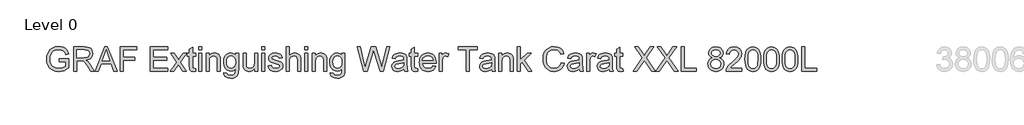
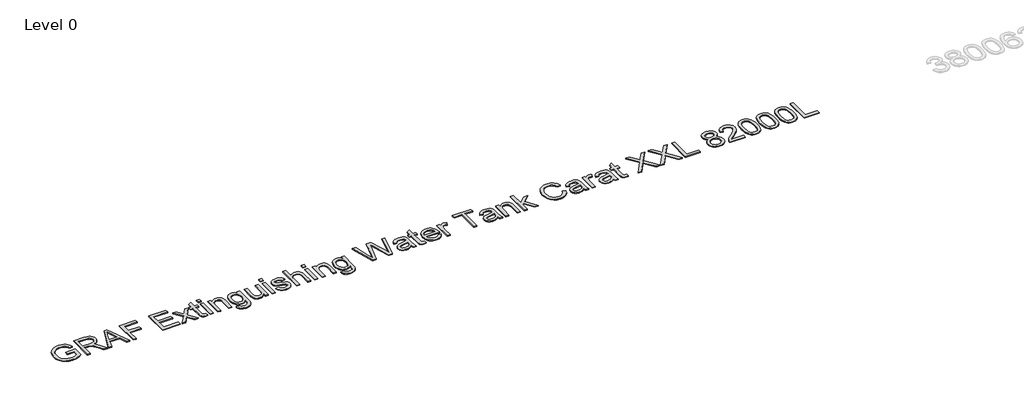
# One storey, part 30 of 37: 1 proxy.
"""IFC4 building model written with IfcOpenShell, lengths in millimetres."""

from ifc_helpers import new_model, si_unit, origin, origin_with_axes, place, context, project, spatial, polyline, outline, extrude, element, save

model = new_model("IFC4")

# Units and contexts
model_context = context("Model", 3, world=origin())
ifc_project = project(units=[si_unit("LENGTHUNIT", "METRE", prefix="MILLI")], contexts=[model_context])

# Site, building, storey
site = spatial("IfcSite", under=ifc_project)
building = spatial("IfcBuilding", under=site)
storey = spatial("IfcBuildingStorey", under=building, Name="Level 0", Elevation=0.0)

# Proxy
placement = place(None, origin())
element("IfcBuildingElementProxy", 1, Name="300mm Arial", ObjectType="300mm Arial", at=placement, inside=storey, context=model_context, shape_type="SweptSolid", body=[
    extrude(outline(polyline([(16759.0059613, -9583.2545597), (16759.0059613, -9545.5834434), (16881.4370893, -9545.5834434), (16881.4370893, -9658.2289103), (16851.6846329, -9678.9222726), (16820.9940775, -9693.7663111), (16789.4389993, -9702.7058436), (16757.0929749, -9705.6856877), (16714.8325307, -9700.949207), (16676.6371825, -9686.739765), (16644.9073605, -9663.5540022), (16622.0434945, -9631.8885595), (16608.2203285, -9593.9047435), (16603.6126065, -9551.7638609), (16608.2019344, -9509.3194757), (16621.9699181, -9469.8365406), (16644.3463404, -9436.717964), (16674.7609844, -9413.3666543), (16711.8067013, -9399.5158972), (16754.0763425, -9394.8989782), (16785.1071888, -9397.5753197), (16813.0110382, -9405.6043443), (16836.5095006, -9418.4066377), (16854.3241862, -9435.4027859), (16867.5035587, -9457.4113262), (16877.0960817, -9485.2507962), (16842.3680214, -9495.0364573), (16834.6149083, -9475.1800266), (16825.1879322, -9460.1980323), (16812.7167326, -9448.9040551), (16795.830949, -9440.1116754), (16775.6986068, -9434.4554897), (16753.4877313, -9432.5700945), (16727.4876713, -9434.6026425), (16705.2584018, -9440.7002866), (16686.8826961, -9450.0996716), (16672.4433278, -9462.0374423), (16653.0559467, -9491.0633317), (16644.2267788, -9519.50061), (16641.2837228, -9550.2187566), (16644.824587, -9586.2436009), (16655.4471796, -9615.8856927), (16672.8296039, -9638.9334997), (16696.6499631, -9655.1754898), (16724.5262213, -9664.804801), (16754.0763425, -9668.0145714), (16780.168373, -9665.5957473), (16805.6166101, -9658.3392749), (16827.7171209, -9648.3420817), (16843.765973, -9637.701095), (16843.765973, -9583.2545597), (16759.0059613, -9583.2545597)])), origin_with_axes(), (0.0, 0.0, 1.0), 10.0),
    extrude(outline(polyline([(16942.6526533, -9700.9767982), (16942.6526533, -9399.6078677), (17072.5149976, -9399.6078677), (17107.4178018, -9401.6404158), (17132.8108566, -9407.7380598), (17151.3705032, -9418.9952489), (17165.7730833, -9436.5064318), (17175.0161185, -9458.2206666), (17178.0971302, -9482.087011), (17172.9927675, -9511.7750881), (17157.6796794, -9536.3863935), (17146.0799003, -9546.4157764), (17131.6980135, -9554.4310054), (17094.5879173, -9564.4190016), (17115.9986494, -9580.532233), (17146.532855, -9619.3069952), (17196.7855355, -9700.9767982), (17153.0075781, -9700.9767982), (17113.7913574, -9638.5104354), (17085.4644438, -9597.1604991), (17065.5620278, -9577.6259652), (17047.6461747, -9570.4522663), (17025.7939842, -9569.1278911), (16980.3237696, -9569.1278911), (16980.3237696, -9700.9767982), (16942.6526533, -9700.9767982)]), holes=[polyline([(16980.3237696, -9531.4567748), (17064.6423229, -9531.4567748), (17088.8581552, -9530.1232026), (17107.6477281, -9526.1224859), (17121.7927908, -9519.1879103), (17132.0750926, -9509.0527613), (17138.3382835, -9496.7930938), (17140.4260139, -9483.4849626), (17136.4436913, -9465.109257), (17124.4967235, -9450.3020067), (17103.941317, -9440.5347397), (17074.1336783, -9437.278984), (16980.3237696, -9437.278984), (16980.3237696, -9531.4567748)])]), origin_with_axes(), (0.0, 0.0, 1.0), 10.0),
    extrude(outline(polyline([(17208.9256414, -9700.9767982), (17329.2230538, -9399.6078677), (17361.3023638, -9399.6078677), (17481.5997762, -9700.9767982), (17441.7949443, -9700.9767982), (17407.2876132, -9606.7990074), (17283.164228, -9606.7990074), (17248.7304732, -9700.9767982), (17208.9256414, -9700.9767982)]), holes=[polyline([(17296.996591, -9569.1278911), (17393.5288265, -9569.1278911), (17366.3791353, -9495.0364573), (17345.2627088, -9437.278984), (17326.500727, -9488.5617342), (17296.996591, -9569.1278911)])]), origin_with_axes(), (0.0, 0.0, 1.0), 10.0),
    extrude(outline(polyline([(17521.8460665, -9700.9767982), (17521.8460665, -9399.6078677), (17724.3283166, -9399.6078677), (17724.3283166, -9437.278984), (17559.5171828, -9437.278984), (17559.5171828, -9526.7478853), (17700.7838689, -9526.7478853), (17700.7838689, -9564.4190016), (17559.5171828, -9564.4190016), (17559.5171828, -9700.9767982), (17521.8460665, -9700.9767982)])), origin_with_axes(), (0.0, 0.0, 1.0), 10.0),
    extrude(outline(polyline([(17893.84834, -9700.9767982), (17893.84834, -9399.6078677), (18110.4572587, -9399.6078677), (18110.4572587, -9437.278984), (17931.5194563, -9437.278984), (17931.5194563, -9526.7478853), (18101.0394797, -9526.7478853), (18101.0394797, -9564.4190016), (17931.5194563, -9564.4190016), (17931.5194563, -9663.3056819), (18115.1661483, -9663.3056819), (18115.1661483, -9700.9767982), (17893.84834, -9700.9767982)])), origin_with_axes(), (0.0, 0.0, 1.0), 10.0),
    extrude(outline(polyline([(18143.4194855, -9700.9767982), (18223.9120661, -9589.7292828), (18148.1283751, -9479.6589899), (18193.4514369, -9479.6589899), (18230.0189072, -9532.6339972), (18247.0886318, -9557.6499729), (18261.877488, -9537.1957339), (18303.5217298, -9479.6589899), (18348.8447916, -9479.6589899), (18269.2351279, -9589.7292828), (18345.9017357, -9700.9767982), (18300.5786739, -9700.9767982), (18254.4462717, -9634.0958515), (18245.9849858, -9621.8821692), (18188.7425473, -9700.9767982), (18143.4194855, -9700.9767982)])), origin_with_axes(), (0.0, 0.0, 1.0), 10.0),
    extrude(outline(polyline([(18458.9150846, -9669.5596758), (18463.6239741, -9702.0804442), (18435.4442133, -9705.6856877), (18417.3628132, -9704.1221892), (18403.8799381, -9699.4316938), (18394.3517944, -9692.2028126), (18388.1345887, -9683.0241568), (18384.7132861, -9667.2604133), (18383.572852, -9640.276269), (18383.572852, -9517.3301062), (18355.3195147, -9517.3301062), (18355.3195147, -9479.6589899), (18383.572852, -9479.6589899), (18383.572852, -9425.8746422), (18421.2439683, -9403.7281461), (18421.2439683, -9479.6589899), (18458.9150846, -9479.6589899), (18458.9150846, -9517.3301062), (18421.2439683, -9517.3301062), (18421.2439683, -9639.172623), (18423.230531, -9658.5967923), (18429.668466, -9665.4761856), (18442.5075476, -9668.0145714), (18458.9150846, -9669.5596758)])), origin_with_axes(), (0.0, 0.0, 1.0), 10.0),
    extrude(outline(polyline([(18496.5862009, -9437.278984), (18496.5862009, -9399.6078677), (18534.2573172, -9399.6078677), (18534.2573172, -9437.278984), (18496.5862009, -9437.278984)])), origin_with_axes(), (0.0, 0.0, 1.0), 10.0),
    extrude(outline(polyline([(18496.5862009, -9700.9767982), (18496.5862009, -9479.6589899), (18534.2573172, -9479.6589899), (18534.2573172, -9700.9767982), (18496.5862009, -9700.9767982)])), origin_with_axes(), (0.0, 0.0, 1.0), 10.0),
    extrude(outline(polyline([(18590.7639916, -9700.9767982), (18590.7639916, -9479.6589899), (18628.435108, -9479.6589899), (18628.435108, -9510.5610775), (18641.5225099, -9494.981275), (18657.2402682, -9483.8528446), (18675.5883827, -9477.1757864), (18696.5668535, -9474.9501003), (18715.1356972, -9476.7435251), (18732.1410424, -9482.1237992), (18746.3228933, -9490.4195382), (18756.4212541, -9500.9593574), (18767.7152313, -9528.6608716), (18769.7017941, -9565.0811892), (18769.7017941, -9700.9767982), (18732.0306778, -9700.9767982), (18732.0306778, -9570.1579607), (18727.6896703, -9536.8278519), (18721.6839967, -9526.9042351), (18712.3489911, -9519.2063044), (18700.3836292, -9514.2674886), (18686.4868868, -9512.6212166), (18664.4231641, -9516.3184307), (18645.6151971, -9527.4100729), (18638.0989081, -9536.4645685), (18632.7301302, -9548.8391991), (18628.435108, -9583.5488653), (18628.435108, -9700.9767982), (18590.7639916, -9700.9767982)])), origin_with_axes(), (0.0, 0.0, 1.0), 10.0),
    extrude(outline(polyline([(18812.0817999, -9719.8123563), (18849.7529163, -9724.5212459), (18853.9099828, -9736.2934697), (18861.9665985, -9744.3868736), (18877.8039184, -9750.6776557), (18898.5340688, -9752.7745831), (18920.6437767, -9750.4017442), (18937.0881019, -9743.2832276), (18948.4924438, -9731.8788858), (18955.4822017, -9716.6485712), (18958.0573756, -9672.7234609), (18945.5217966, -9685.084296), (18931.5330838, -9693.9134639), (18916.091237, -9699.2109646), (18899.1962564, -9700.9767982), (18878.5419816, -9698.9212575), (18860.3571148, -9692.7546356), (18844.6416558, -9682.4769323), (18831.3956047, -9668.0881478), (18820.8856759, -9650.8252852), (18813.378584, -9631.9253477), (18808.8743288, -9611.3883353), (18807.3729104, -9589.214248), (18810.067646, -9558.7996041), (18818.1518529, -9530.8313754), (18831.3404224, -9507.1305779), (18849.3482461, -9489.5182274), (18871.5591215, -9478.5921321), (18897.3568464, -9474.9501003), (18914.9737955, -9477.0102395), (18930.9628667, -9483.190657), (18945.3240601, -9493.4913529), (18958.0573756, -9507.9123271), (18958.0573756, -9479.6589899), (18995.7284919, -9479.6589899), (18995.7284919, -9670.7368982), (18993.153318, -9714.8551464), (18985.4277961, -9743.908627), (18972.1196649, -9763.1764465), (18952.7966631, -9777.9377116), (18927.881855, -9787.3187024), (18897.7983048, -9790.4456994), (18862.7483477, -9786.0403125), (18835.148001, -9772.8241518), (18824.7530354, -9762.9028343), (18817.44368, -9750.7604292), (18813.2199349, -9736.3969365), (18812.0817999, -9719.8123563)]), holes=[polyline([(18845.0440267, -9586.6390741), (18849.0631375, -9621.1923905), (18861.1204699, -9644.9483703), (18879.2478552, -9658.716354), (18901.4771248, -9663.3056819), (18923.5408474, -9658.7439451), (18941.7602032, -9645.0587349), (18953.9830825, -9621.6062577), (18958.0573756, -9587.7427201), (18953.8635209, -9555.0839959), (18941.2819567, -9531.5671394), (18922.7958864, -9517.3576973), (18900.8885136, -9512.6212166), (18879.3766139, -9517.2841209), (18861.3411991, -9531.2728338), (18849.1183198, -9554.4402024), (18845.0440267, -9586.6390741)])]), origin_with_axes(), (0.0, 0.0, 1.0), 10.0),
    extrude(outline(polyline([(19193.5018525, -9700.9767982), (19193.5018525, -9662.9377999), (19179.8718246, -9681.6400008), (19163.9977165, -9694.9987158), (19145.8795283, -9703.0139447), (19125.5172598, -9705.6856877), (19107.1691453, -9703.8094895), (19090.0902237, -9698.180895), (19075.76122, -9689.7196091), (19065.6628592, -9679.3453369), (19054.4424584, -9651.6070344), (19052.2351664, -9616.5846685), (19052.2351664, -9479.6589899), (19089.9062827, -9479.6589899), (19089.9062827, -9598.8527563), (19092.1871511, -9637.2596366), (19097.6777899, -9650.0711271), (19107.0863719, -9659.8108029), (19119.7874978, -9665.9636293), (19135.1557681, -9668.0145714), (19151.4069552, -9665.917644), (19166.6096787, -9659.6268619), (19179.1452577, -9649.7216392), (19187.3950114, -9636.78139), (19191.9751423, -9619.0586749), (19193.5018525, -9594.8060544), (19193.5018525, -9479.6589899), (19231.1729689, -9479.6589899), (19231.1729689, -9700.9767982), (19193.5018525, -9700.9767982)])), origin_with_axes(), (0.0, 0.0, 1.0), 10.0),
    extrude(outline(polyline([(19282.9707538, -9437.278984), (19282.9707538, -9399.6078677), (19320.6418701, -9399.6078677), (19320.6418701, -9437.278984), (19282.9707538, -9437.278984)])), origin_with_axes(), (0.0, 0.0, 1.0), 10.0),
    extrude(outline(polyline([(19282.9707538, -9700.9767982), (19282.9707538, -9479.6589899), (19320.6418701, -9479.6589899), (19320.6418701, -9700.9767982), (19282.9707538, -9700.9767982)])), origin_with_axes(), (0.0, 0.0, 1.0), 10.0),
    extrude(outline(polyline([(19363.0218759, -9635.0523446), (19400.6929922, -9630.3434551), (19406.6342865, -9646.4566865), (19418.1305988, -9658.3024867), (19435.2555057, -9665.5865502), (19458.0825835, -9668.0145714), (19480.6337498, -9665.7888853), (19496.4894638, -9659.1118271), (19505.8704547, -9649.4365307), (19508.9974516, -9638.2161298), (19505.8520606, -9628.6144097), (19496.4158874, -9621.293558), (19457.6411251, -9610.5514038), (19400.9137214, -9592.1205158), (19386.5571266, -9582.8590866), (19376.1552632, -9570.5994191), (19369.8368899, -9556.1232626), (19367.7307655, -9540.2123663), (19369.4230226, -9525.6166481), (19374.4997942, -9512.1429701), (19382.5012276, -9500.324761), (19392.9674703, -9490.6954497), (19416.9165882, -9479.5486253), (19449.326992, -9474.9501003), (19473.846327, -9476.7987074), (19495.1650886, -9482.3445284), (19512.3083896, -9491.0449376), (19524.3013426, -9502.357309), (19532.2475937, -9517.118574), (19537.2507888, -9536.1656643), (19499.5796725, -9540.8745539), (19494.8247977, -9529.0195566), (19485.4162157, -9520.0892211), (19471.261956, -9514.4882178), (19452.270048, -9512.6212166), (19430.6385866, -9514.4054443), (19416.2176124, -9519.7581274), (19408.1058144, -9527.4836493), (19405.4018818, -9536.3863935), (19409.8900421, -9547.349277), (19423.9431343, -9555.6634101), (19456.3903263, -9563.6832376), (19511.6829902, -9581.4151497), (19526.2879054, -9589.8948297), (19537.3611534, -9601.5015067), (19544.3417143, -9616.2719688), (19546.6685679, -9634.2430043), (19543.9370441, -9652.821045), (19535.7424727, -9670.2954398), (19522.3975533, -9685.2958281), (19504.2149857, -9696.4518496), (19482.2524306, -9703.3772282), (19457.5675487, -9705.6856877), (19419.5837327, -9701.2343156), (19391.8638243, -9687.8801992), (19373.35936, -9665.7704912), (19363.0218759, -9635.0523446)])), origin_with_axes(), (0.0, 0.0, 1.0), 10.0),
    extrude(outline(polyline([(19589.0485738, -9700.9767982), (19589.0485738, -9399.6078677), (19626.7196901, -9399.6078677), (19626.7196901, -9510.4139247), (19640.5566516, -9494.8985015), (19656.0950674, -9483.8160564), (19673.3349374, -9477.1665894), (19692.2762616, -9474.9501003), (19715.029763, -9477.3689245), (19734.5826911, -9484.6253968), (19749.9785526, -9496.1493003), (19760.2608543, -9511.3704179), (19766.0549957, -9532.2845093), (19767.9863762, -9560.8873344), (19767.9863762, -9700.9767982), (19730.3152599, -9700.9767982), (19730.3152599, -9564.7868836), (19727.3170216, -9541.2056477), (19718.3223069, -9525.0556281), (19703.8277563, -9515.7298195), (19684.3300105, -9512.6212166), (19668.4099172, -9514.718144), (19653.4647111, -9521.0089261), (19641.085482, -9530.8865577), (19632.8633194, -9543.7440334), (19628.2555974, -9560.8321521), (19626.7196901, -9583.4017125), (19626.7196901, -9700.9767982), (19589.0485738, -9700.9767982)])), origin_with_axes(), (0.0, 0.0, 1.0), 10.0),
    extrude(outline(polyline([(19819.7841611, -9437.278984), (19819.7841611, -9399.6078677), (19857.4552774, -9399.6078677), (19857.4552774, -9437.278984), (19819.7841611, -9437.278984)])), origin_with_axes(), (0.0, 0.0, 1.0), 10.0),
    extrude(outline(polyline([(19819.7841611, -9700.9767982), (19819.7841611, -9479.6589899), (19857.4552774, -9479.6589899), (19857.4552774, -9700.9767982), (19819.7841611, -9700.9767982)])), origin_with_axes(), (0.0, 0.0, 1.0), 10.0),
    extrude(outline(polyline([(19913.9619519, -9700.9767982), (19913.9619519, -9479.6589899), (19951.6330682, -9479.6589899), (19951.6330682, -9510.5610775), (19964.7204702, -9494.981275), (19980.4382284, -9483.8528446), (19998.7863429, -9477.1757864), (20019.7648137, -9474.9501003), (20038.3336574, -9476.7435251), (20055.3390026, -9482.1237992), (20069.5208536, -9490.4195382), (20079.6192143, -9500.9593574), (20090.9131916, -9528.6608716), (20092.8997544, -9565.0811892), (20092.8997544, -9700.9767982), (20055.228638, -9700.9767982), (20055.228638, -9570.1579607), (20050.8876305, -9536.8278519), (20044.8819569, -9526.9042351), (20035.5469513, -9519.2063044), (20023.5815894, -9514.2674886), (20009.684847, -9512.6212166), (19987.6211244, -9516.3184307), (19968.8131574, -9527.4100729), (19961.2968684, -9536.4645685), (19955.9280905, -9548.8391991), (19951.6330682, -9583.5488653), (19951.6330682, -9700.9767982), (19913.9619519, -9700.9767982)])), origin_with_axes(), (0.0, 0.0, 1.0), 10.0),
    extrude(outline(polyline([(20135.2797602, -9719.8123563), (20172.9508765, -9724.5212459), (20177.1079431, -9736.2934697), (20185.1645587, -9744.3868736), (20201.0018786, -9750.6776557), (20221.7320291, -9752.7745831), (20243.841737, -9750.4017442), (20260.2860622, -9743.2832276), (20271.690404, -9731.8788858), (20278.6801619, -9716.6485712), (20281.2553359, -9672.7234609), (20268.7197569, -9685.084296), (20254.731044, -9693.9134639), (20239.2891973, -9699.2109646), (20222.3942167, -9700.9767982), (20201.7399419, -9698.9212575), (20183.555075, -9692.7546356), (20167.839616, -9682.4769323), (20154.5935649, -9668.0881478), (20144.0836362, -9650.8252852), (20136.5765442, -9631.9253477), (20132.0722891, -9611.3883353), (20130.5708707, -9589.214248), (20133.2656063, -9558.7996041), (20141.3498131, -9530.8313754), (20154.5383826, -9507.1305779), (20172.5462063, -9489.5182274), (20194.7570818, -9478.5921321), (20220.5548067, -9474.9501003), (20238.1717557, -9477.0102395), (20254.1608269, -9483.190657), (20268.5220203, -9493.4913529), (20281.2553359, -9507.9123271), (20281.2553359, -9479.6589899), (20318.9264522, -9479.6589899), (20318.9264522, -9670.7368982), (20316.3512782, -9714.8551464), (20308.6257563, -9743.908627), (20295.3176252, -9763.1764465), (20275.9946234, -9777.9377116), (20251.0798152, -9787.3187024), (20220.9962651, -9790.4456994), (20185.946308, -9786.0403125), (20158.3459613, -9772.8241518), (20147.9509957, -9762.9028343), (20140.6416403, -9750.7604292), (20136.4178951, -9736.3969365), (20135.2797602, -9719.8123563)]), holes=[polyline([(20168.241987, -9586.6390741), (20172.2610978, -9621.1923905), (20184.3184302, -9644.9483703), (20202.4458155, -9658.716354), (20224.675085, -9663.3056819), (20246.7388077, -9658.7439451), (20264.9581635, -9645.0587349), (20277.1810428, -9621.6062577), (20281.2553359, -9587.7427201), (20277.0614811, -9555.0839959), (20264.4799169, -9531.5671394), (20245.9938466, -9517.3576973), (20224.0864738, -9512.6212166), (20202.5745742, -9517.2841209), (20184.5391594, -9531.2728338), (20172.3162801, -9554.4402024), (20168.241987, -9586.6390741)])]), origin_with_axes(), (0.0, 0.0, 1.0), 10.0),
    extrude(outline(polyline([(20551.7957551, -9700.9767982), (20469.6109174, -9399.6078677), (20508.4592561, -9399.6078677), (20556.1367627, -9597.6755339), (20570.8520425, -9658.8175215), (20586.5973919, -9604.7388682), (20646.3414279, -9399.6078677), (20702.3330676, -9399.6078677), (20745.743143, -9548.3057702), (20764.3395779, -9603.4880695), (20778.0431822, -9658.8175215), (20792.3170036, -9599.4413675), (20840.4359686, -9399.6078677), (20879.2843072, -9399.6078677), (20797.0258931, -9700.9767982), (20756.7796029, -9700.9767982), (20684.527579, -9468.4753772), (20674.4476123, -9436.0281853), (20663.1168469, -9475.0972531), (20597.2659697, -9700.9767982), (20551.7957551, -9700.9767982)])), origin_with_axes(), (0.0, 0.0, 1.0), 10.0),
    extrude(outline(polyline([(21053.5132202, -9672.7234609), (21035.5145935, -9688.1561106), (21016.982538, -9698.2544714), (20997.4939893, -9703.8278836), (20976.6258832, -9705.6856877), (20945.1443814, -9701.2159215), (20921.9218305, -9687.8066228), (20907.6020238, -9667.4443543), (20902.8287549, -9642.115679), (20904.6313767, -9626.4990883), (20910.039242, -9612.3172373), (20918.3809663, -9600.1771315), (20928.9851648, -9590.685776), (20955.3623038, -9578.324941), (20987.9566486, -9572.6595583), (21026.4738935, -9566.6998699), (21053.292491, -9559.710112), (21053.5132202, -9551.3224025), (21050.9196521, -9534.5101954), (21043.1389479, -9523.5105237), (21025.7381295, -9515.3435434), (21001.494706, -9512.6212166), (20979.0539043, -9514.4330355), (20963.3821313, -9519.868492), (20952.6951594, -9529.9208675), (20945.2087608, -9545.5834434), (20907.5376445, -9540.8745539), (20914.0767469, -9520.2731621), (20923.8348169, -9504.0863544), (20937.7223622, -9491.7071252), (20956.6498908, -9482.5284694), (20979.7988654, -9476.8446926), (21006.3507484, -9474.9501003), (21031.8173795, -9476.6239634), (21052.004904, -9481.6455527), (21067.2260215, -9489.1963306), (21077.7934318, -9498.4577598), (21084.8015838, -9509.9080869), (21089.3449265, -9524.0255585), (21091.1843365, -9556.9877853), (21091.1843365, -9603.8559515), (21093.0973228, -9669.3021584), (21100.6021155, -9700.9767982), (21062.9309992, -9700.9767982), (21053.5132202, -9672.7234609)]), holes=[polyline([(21053.5132202, -9597.3812283), (20992.7391146, -9608.932723), (20960.3287108, -9615.0395641), (20945.6502192, -9624.972378), (20940.4998712, -9639.4669286), (20943.3049715, -9650.6689353), (20951.7202721, -9659.8475911), (20965.5618322, -9665.9728263), (20984.6457107, -9668.0145714), (21004.8792204, -9665.7612942), (21022.7582854, -9659.0014625), (21037.252836, -9649.0410575), (21047.3328026, -9637.1860602), (21051.8025689, -9624.972378), (21053.292491, -9608.0498062), (21053.5132202, -9597.3812283)])]), origin_with_axes(), (0.0, 0.0, 1.0), 10.0),
    extrude(outline(polyline([(21223.0332435, -9669.5596758), (21227.7421331, -9702.0804442), (21199.5623722, -9705.6856877), (21181.4809722, -9704.1221892), (21167.9980971, -9699.4316938), (21158.4699534, -9692.2028126), (21152.2527477, -9683.0241568), (21148.8314451, -9667.2604133), (21147.6910109, -9640.276269), (21147.6910109, -9517.3301062), (21119.4376737, -9517.3301062), (21119.4376737, -9479.6589899), (21147.6910109, -9479.6589899), (21147.6910109, -9425.8746422), (21185.3621272, -9403.7281461), (21185.3621272, -9479.6589899), (21223.0332435, -9479.6589899), (21223.0332435, -9517.3301062), (21185.3621272, -9517.3301062), (21185.3621272, -9639.172623), (21187.34869, -9658.5967923), (21193.7866249, -9665.4761856), (21206.6257066, -9668.0145714), (21223.0332435, -9669.5596758)])), origin_with_axes(), (0.0, 0.0, 1.0), 10.0),
    extrude(outline(polyline([(21415.6562562, -9635.0523446), (21452.5916085, -9639.7612342), (21439.2834774, -9667.5915071), (21418.0474892, -9688.3952339), (21389.3618906, -9701.3630743), (21353.7049282, -9705.6856877), (21330.330626, -9703.8209859), (21309.5039065, -9698.2268803), (21291.2247699, -9688.9033709), (21275.493216, -9675.8504579), (21262.8426739, -9659.4314246), (21253.8065724, -9640.0095545), (21248.3849115, -9617.5848477), (21246.5776912, -9592.157304), (21248.4033056, -9565.8675369), (21253.8801488, -9542.6955698), (21263.0082208, -9522.6414025), (21275.7875216, -9505.7050351), (21291.4776887, -9492.2497512), (21309.3383596, -9482.638834), (21329.3695342, -9476.8722838), (21351.5712127, -9474.9501003), (21373.0578204, -9476.8676852), (21392.4888876, -9482.6204399), (21409.8644141, -9492.2083644), (21425.1843999, -9505.6314587), (21437.6900885, -9522.5310379), (21446.6227232, -9542.548417), (21451.982304, -9565.6835959), (21453.7688309, -9591.9365748), (21453.5481017, -9602.0901179), (21284.2488075, -9602.0901179), (21290.7695159, -9630.2882728), (21305.9170571, -9651.0184232), (21327.7784446, -9663.7655344), (21354.4406922, -9668.0145714), (21374.490261, -9666.0464027), (21391.3760445, -9660.1418967), (21405.098043, -9649.9331713), (21415.6562562, -9635.0523446)]), holes=[polyline([(21284.2488075, -9564.4190016), (21416.0977146, -9564.4190016), (21411.002549, -9544.5165856), (21401.0145528, -9530.2795524), (21379.0519977, -9517.0358006), (21351.4240599, -9512.6212166), (21326.0310051, -9516.1436868), (21305.0341403, -9526.7110971), (21290.4384221, -9543.1830134), (21284.2488075, -9564.4190016)])]), origin_with_axes(), (0.0, 0.0, 1.0), 10.0),
    extrude(outline(polyline([(21491.4399472, -9700.9767982), (21491.4399472, -9479.6589899), (21524.402174, -9479.6589899), (21524.402174, -9512.4004875), (21536.579068, -9493.4177765), (21547.7994689, -9482.2341638), (21559.0566579, -9476.7711162), (21571.3439166, -9474.9501003), (21590.1058983, -9477.8563681), (21609.1621857, -9486.5751714), (21596.5806214, -9520.3467385), (21583.3368696, -9514.5525971), (21570.0931178, -9512.6212166), (21558.8451258, -9514.4790207), (21548.7927503, -9520.052433), (21540.6717552, -9528.918389), (21535.2179046, -9540.6538247), (21530.6377738, -9561.6966748), (21529.1110635, -9584.6525113), (21529.1110635, -9700.9767982), (21491.4399472, -9700.9767982)])), origin_with_axes(), (0.0, 0.0, 1.0), 10.0),
    extrude(outline(polyline([(21830.479994, -9700.9767982), (21830.479994, -9437.278984), (21731.5933137, -9437.278984), (21731.5933137, -9399.6078677), (21967.0377906, -9399.6078677), (21967.0377906, -9437.278984), (21868.1511103, -9437.278984), (21868.1511103, -9700.9767982), (21830.479994, -9700.9767982)])), origin_with_axes(), (0.0, 0.0, 1.0), 10.0),
    extrude(outline(polyline([(22145.975593, -9672.7234609), (22127.9769664, -9688.1561106), (22109.4449109, -9698.2544714), (22089.9563622, -9703.8278836), (22069.088256, -9705.6856877), (22037.6067543, -9701.2159215), (22014.3842034, -9687.8066228), (22000.0643967, -9667.4443543), (21995.2911278, -9642.115679), (21997.0937496, -9626.4990883), (22002.5016149, -9612.3172373), (22010.8433392, -9600.1771315), (22021.4475377, -9590.685776), (22047.8246767, -9578.324941), (22080.4190215, -9572.6595583), (22118.9362664, -9566.6998699), (22145.7548638, -9559.710112), (22145.975593, -9551.3224025), (22143.382025, -9534.5101954), (22135.6013208, -9523.5105237), (22118.2005024, -9515.3435434), (22093.9570789, -9512.6212166), (22071.5162772, -9514.4330355), (22055.8445042, -9519.868492), (22045.1575323, -9529.9208675), (22037.6711337, -9545.5834434), (22000.0000174, -9540.8745539), (22006.5391198, -9520.2731621), (22016.2971897, -9504.0863544), (22030.1847351, -9491.7071252), (22049.1122637, -9482.5284694), (22072.2612383, -9476.8446926), (22098.8131213, -9474.9501003), (22124.2797524, -9476.6239634), (22144.4672769, -9481.6455527), (22159.6883944, -9489.1963306), (22170.2558047, -9498.4577598), (22177.2639567, -9509.9080869), (22181.8072994, -9524.0255585), (22183.6467093, -9556.9877853), (22183.6467093, -9603.8559515), (22185.5596957, -9669.3021584), (22193.0644884, -9700.9767982), (22155.3933721, -9700.9767982), (22145.975593, -9672.7234609)]), holes=[polyline([(22145.975593, -9597.3812283), (22085.2014874, -9608.932723), (22052.7910837, -9615.0395641), (22038.1125921, -9624.972378), (22032.9622441, -9639.4669286), (22035.7673443, -9650.6689353), (22044.182645, -9659.8475911), (22058.024205, -9665.9728263), (22077.1080835, -9668.0145714), (22097.3415933, -9665.7612942), (22115.2206582, -9659.0014625), (22129.7152089, -9649.0410575), (22139.7951755, -9637.1860602), (22144.2649418, -9624.972378), (22145.7548638, -9608.0498062), (22145.975593, -9597.3812283)])]), origin_with_axes(), (0.0, 0.0, 1.0), 10.0),
    extrude(outline(polyline([(22235.4444943, -9700.9767982), (22235.4444943, -9479.6589899), (22273.1156106, -9479.6589899), (22273.1156106, -9510.5610775), (22286.2030125, -9494.981275), (22301.9207708, -9483.8528446), (22320.2688853, -9477.1757864), (22341.2473561, -9474.9501003), (22359.8161998, -9476.7435251), (22376.821545, -9482.1237992), (22391.0033959, -9490.4195382), (22401.1017567, -9500.9593574), (22412.3957339, -9528.6608716), (22414.3822967, -9565.0811892), (22414.3822967, -9700.9767982), (22376.7111804, -9700.9767982), (22376.7111804, -9570.1579607), (22372.3701729, -9536.8278519), (22366.3644993, -9526.9042351), (22357.0294937, -9519.2063044), (22345.0641318, -9514.2674886), (22331.1673894, -9512.6212166), (22309.1036667, -9516.3184307), (22290.2956997, -9527.4100729), (22282.7794107, -9536.4645685), (22277.4106329, -9548.8391991), (22273.1156106, -9583.5488653), (22273.1156106, -9700.9767982), (22235.4444943, -9700.9767982)])), origin_with_axes(), (0.0, 0.0, 1.0), 10.0),
    extrude(outline(polyline([(22466.1800816, -9700.9767982), (22466.1800816, -9399.6078677), (22503.8511979, -9399.6078677), (22503.8511979, -9561.549522), (22588.316904, -9479.6589899), (22640.4089946, -9479.6589899), (22554.9132189, -9562.5795916), (22645.1178841, -9700.9767982), (22601.1191975, -9700.9767982), (22527.9106804, -9588.7727896), (22503.8511979, -9612.0965081), (22503.8511979, -9700.9767982), (22466.1800816, -9700.9767982)])), origin_with_axes(), (0.0, 0.0, 1.0), 10.0),
    extrude(outline(polyline([(23012.4112681, -9593.8495612), (23050.0823844, -9603.5616459), (23042.6281755, -9626.9888312), (23032.6999601, -9647.4591649), (23020.2977383, -9664.9726472), (23005.4215102, -9679.5292779), (22988.4069679, -9690.9727072), (22969.5898038, -9699.1465853), (22948.970018, -9704.0509121), (22926.5476104, -9705.6856877), (22882.8524264, -9700.7376749), (22848.1519572, -9685.8936364), (22821.554089, -9661.668607), (22802.1667078, -9628.5776215), (22790.3301046, -9589.6741005), (22786.3845702, -9548.0114646), (22790.8451394, -9504.0679603), (22804.226847, -9466.1209325), (22825.8307172, -9435.3751947), (22854.9577741, -9413.0355606), (22889.5018935, -9399.4331238), (22927.3569508, -9394.8989782), (22968.6609018, -9400.766696), (22986.629638, -9408.1013433), (23002.809548, -9418.3698495), (23016.9339174, -9431.3009016), (23028.7360316, -9446.6231867), (23045.3734948, -9484.4414558), (23007.7023785, -9493.4177765), (22994.6425677, -9465.9461885), (22976.8002909, -9447.1014333), (22953.954819, -9436.2029292), (22925.8854228, -9432.5700945), (22893.5302013, -9436.5984023), (22866.9507272, -9448.6833259), (22846.7815968, -9467.5556722), (22833.6574066, -9491.9462485), (22826.4561166, -9519.5190041), (22824.0556865, -9547.9378882), (22826.897575, -9582.7395249), (22835.4232402, -9612.8322721), (22849.954579, -9637.0664986), (22870.8134881, -9654.292573), (22895.8202668, -9664.5840718), (22922.7952141, -9668.0145714), (22954.2399276, -9663.3424701), (22980.4423227, -9649.3261661), (23000.225177, -9626.1128122), (23012.4112681, -9593.8495612)])), origin_with_axes(), (0.0, 0.0, 1.0), 10.0),
    extrude(outline(polyline([(23238.4379659, -9672.7234609), (23220.4393393, -9688.1561106), (23201.9072838, -9698.2544714), (23182.4187351, -9703.8278836), (23161.5506289, -9705.6856877), (23130.0691272, -9701.2159215), (23106.8465762, -9687.8066228), (23092.5267696, -9667.4443543), (23087.7535007, -9642.115679), (23089.5561225, -9626.4990883), (23094.9639878, -9612.3172373), (23103.305712, -9600.1771315), (23113.9099105, -9590.685776), (23140.2870496, -9578.324941), (23172.8813944, -9572.6595583), (23211.3986393, -9566.6998699), (23238.2172367, -9559.710112), (23238.4379659, -9551.3224025), (23235.8443978, -9534.5101954), (23228.0636936, -9523.5105237), (23210.6628753, -9515.3435434), (23186.4194518, -9512.6212166), (23163.9786501, -9514.4330355), (23148.3068771, -9519.868492), (23137.6199051, -9529.9208675), (23130.1335065, -9545.5834434), (23092.4623902, -9540.8745539), (23099.0014927, -9520.2731621), (23108.7595626, -9504.0863544), (23122.6471079, -9491.7071252), (23141.5746366, -9482.5284694), (23164.7236111, -9476.8446926), (23191.2754941, -9474.9501003), (23216.7421252, -9476.6239634), (23236.9296497, -9481.6455527), (23252.1507673, -9489.1963306), (23262.7181776, -9498.4577598), (23269.7263296, -9509.9080869), (23274.2696722, -9524.0255585), (23276.1090822, -9556.9877853), (23276.1090822, -9603.8559515), (23278.0220686, -9669.3021584), (23285.5268613, -9700.9767982), (23247.855745, -9700.9767982), (23238.4379659, -9672.7234609)]), holes=[polyline([(23238.4379659, -9597.3812283), (23177.6638603, -9608.932723), (23145.2534565, -9615.0395641), (23130.5749649, -9624.972378), (23125.424617, -9639.4669286), (23128.2297172, -9650.6689353), (23136.6450178, -9659.8475911), (23150.4865779, -9665.9728263), (23169.5704564, -9668.0145714), (23189.8039662, -9665.7612942), (23207.6830311, -9659.0014625), (23222.1775817, -9649.0410575), (23232.2575484, -9637.1860602), (23236.7273146, -9624.972378), (23238.2172367, -9608.0498062), (23238.4379659, -9597.3812283)])]), origin_with_axes(), (0.0, 0.0, 1.0), 10.0),
    extrude(outline(polyline([(23327.9068671, -9700.9767982), (23327.9068671, -9479.6589899), (23360.8690939, -9479.6589899), (23360.8690939, -9512.4004875), (23373.0459879, -9493.4177765), (23384.2663888, -9482.2341638), (23395.5235779, -9476.7711162), (23407.8108365, -9474.9501003), (23426.5728182, -9477.8563681), (23445.6291056, -9486.5751714), (23433.0475414, -9520.3467385), (23419.8037895, -9514.5525971), (23406.5600377, -9512.6212166), (23395.3120457, -9514.4790207), (23385.2596702, -9520.052433), (23377.1386751, -9528.918389), (23371.6848246, -9540.6538247), (23367.1046937, -9561.6966748), (23365.5779834, -9584.6525113), (23365.5779834, -9700.9767982), (23327.9068671, -9700.9767982)])), origin_with_axes(), (0.0, 0.0, 1.0), 10.0),
    extrude(outline(polyline([(23610.4402394, -9672.7234609), (23592.4416128, -9688.1561106), (23573.9095573, -9698.2544714), (23554.4210086, -9703.8278836), (23533.5529024, -9705.6856877), (23502.0714007, -9701.2159215), (23478.8488498, -9687.8066228), (23464.5290431, -9667.4443543), (23459.7557742, -9642.115679), (23461.558396, -9626.4990883), (23466.9662613, -9612.3172373), (23475.3079856, -9600.1771315), (23485.9121841, -9590.685776), (23512.2893231, -9578.324941), (23544.8836679, -9572.6595583), (23583.4009128, -9566.6998699), (23610.2195102, -9559.710112), (23610.4402394, -9551.3224025), (23607.8466714, -9534.5101954), (23600.0659672, -9523.5105237), (23582.6651488, -9515.3435434), (23558.4217253, -9512.6212166), (23535.9809236, -9514.4330355), (23520.3091506, -9519.868492), (23509.6221787, -9529.9208675), (23502.1357801, -9545.5834434), (23464.4646638, -9540.8745539), (23471.0037662, -9520.2731621), (23480.7618361, -9504.0863544), (23494.6493815, -9491.7071252), (23513.5769101, -9482.5284694), (23536.7258847, -9476.8446926), (23563.2777677, -9474.9501003), (23588.7443988, -9476.6239634), (23608.9319233, -9481.6455527), (23624.1530408, -9489.1963306), (23634.7204511, -9498.4577598), (23641.7286031, -9509.9080869), (23646.2719458, -9524.0255585), (23648.1113557, -9556.9877853), (23648.1113557, -9603.8559515), (23650.0243421, -9669.3021584), (23657.5291348, -9700.9767982), (23619.8580185, -9700.9767982), (23610.4402394, -9672.7234609)]), holes=[polyline([(23610.4402394, -9597.3812283), (23549.6661338, -9608.932723), (23517.2557301, -9615.0395641), (23502.5772385, -9624.972378), (23497.4268905, -9639.4669286), (23500.2319907, -9650.6689353), (23508.6472914, -9659.8475911), (23522.4888514, -9665.9728263), (23541.5727299, -9668.0145714), (23561.8062397, -9665.7612942), (23579.6853046, -9659.0014625), (23594.1798552, -9649.0410575), (23604.2598219, -9637.1860602), (23608.7295882, -9624.972378), (23610.2195102, -9608.0498062), (23610.4402394, -9597.3812283)])]), origin_with_axes(), (0.0, 0.0, 1.0), 10.0),
    extrude(outline(polyline([(23779.9602628, -9669.5596758), (23784.6691524, -9702.0804442), (23756.4893915, -9705.6856877), (23738.4079915, -9704.1221892), (23724.9251163, -9699.4316938), (23715.3969727, -9692.2028126), (23709.1797669, -9683.0241568), (23705.7584644, -9667.2604133), (23704.6180302, -9640.276269), (23704.6180302, -9517.3301062), (23676.364693, -9517.3301062), (23676.364693, -9479.6589899), (23704.6180302, -9479.6589899), (23704.6180302, -9425.8746422), (23742.2891465, -9403.7281461), (23742.2891465, -9479.6589899), (23779.9602628, -9479.6589899), (23779.9602628, -9517.3301062), (23742.2891465, -9517.3301062), (23742.2891465, -9639.172623), (23744.2757093, -9658.5967923), (23750.7136442, -9665.4761856), (23763.5527258, -9668.0145714), (23779.9602628, -9669.5596758)])), origin_with_axes(), (0.0, 0.0, 1.0), 10.0),
    extrude(outline(polyline([(23907.1002803, -9700.9767982), (24023.2774144, -9536.7542755), (23925.9358385, -9399.6078677), (23971.1117475, -9399.6078677), (24025.9261648, -9476.7895103), (24044.3938409, -9506.8822575), (24066.0253023, -9476.2744755), (24120.2511084, -9399.6078677), (24166.089205, -9399.6078677), (24068.747629, -9537.1957339), (24184.9247631, -9700.9767982), (24139.7488541, -9700.9767982), (24062.3464823, -9591.789422), (24046.2332509, -9569.1278911), (24028.5013388, -9593.996714), (23952.9383769, -9700.9767982), (23907.1002803, -9700.9767982)])), origin_with_axes(), (0.0, 0.0, 1.0), 10.0),
    extrude(outline(polyline([(24189.6336526, -9700.9767982), (24305.8107867, -9536.7542755), (24208.4692108, -9399.6078677), (24253.6451198, -9399.6078677), (24308.4595371, -9476.7895103), (24326.9272132, -9506.8822575), (24348.5586746, -9476.2744755), (24402.7844806, -9399.6078677), (24448.6225772, -9399.6078677), (24351.2810013, -9537.1957339), (24467.4581354, -9700.9767982), (24422.2822264, -9700.9767982), (24344.8798546, -9591.789422), (24328.7666232, -9569.1278911), (24311.0347111, -9593.996714), (24235.4717492, -9700.9767982), (24189.6336526, -9700.9767982)])), origin_with_axes(), (0.0, 0.0, 1.0), 10.0),
    extrude(outline(polyline([(24505.1292517, -9700.9767982), (24505.1292517, -9399.6078677), (24542.800368, -9399.6078677), (24542.800368, -9663.3056819), (24693.4848332, -9663.3056819), (24693.4848332, -9700.9767982), (24505.1292517, -9700.9767982)])), origin_with_axes(), (0.0, 0.0, 1.0), 10.0),
    extrude(outline(polyline([(24894.3484026, -9534.988442), (24874.1792722, -9525.0556281), (24860.0250125, -9511.5911471), (24851.6648941, -9494.8709104), (24848.878188, -9475.1708295), (24850.3957012, -9459.8071577), (24854.9482409, -9445.7218758), (24862.5358071, -9432.9149839), (24873.1583997, -9421.3864818), (24886.3055825, -9411.8583382), (24901.4669192, -9405.0525213), (24937.8320544, -9399.6078677), (24974.4179189, -9405.18128), (24989.7448025, -9412.1480452), (25003.0943204, -9421.9015166), (25013.910051, -9433.6553464), (25021.6355729, -9446.6231867), (25026.2708861, -9460.8050376), (25027.8159905, -9476.2008991), (25025.0660725, -9495.2663835), (25016.8163188, -9511.7015117), (25002.9747587, -9525.0832192), (24983.4494218, -9534.988442), (25006.6351846, -9546.9354097), (25023.5117711, -9564.5293662), (25033.8032699, -9586.9241826), (25037.2337695, -9613.2737305), (25035.5323153, -9632.0633034), (25030.4279526, -9649.2893779), (25021.9206815, -9664.9519538), (25010.0105019, -9679.0510313), (24995.3228132, -9690.7036935), (24978.4830149, -9699.0270236), (24959.4911069, -9704.0210217), (24938.3470892, -9705.6856877), (24917.2030716, -9704.0141239), (24898.2111636, -9698.9994325), (24881.3713652, -9690.6416134), (24866.6836766, -9678.9406667), (24854.773497, -9664.7427209), (24846.2662258, -9648.8939047), (24841.1618632, -9631.3942181), (24839.4604089, -9612.2436609), (24843.0288643, -9584.8732405), (24853.7342303, -9562.3588624), (24871.0246841, -9545.4730788), (24894.3484026, -9534.988442)]), holes=[polyline([(24886.5493043, -9476.2744755), (24889.8878334, -9492.7188007), (24899.9034207, -9505.8521879), (24916.3017607, -9514.4606266), (24938.7885476, -9517.3301062), (24960.7511027, -9514.4790207), (24976.9011223, -9505.9257643), (24986.8339362, -9493.2338355), (24990.1448741, -9477.9667327), (24986.7235716, -9462.1202158), (24976.4596639, -9449.0144197), (24960.0889151, -9440.2128429), (24938.3470892, -9437.278984), (24916.4673076, -9440.1484636), (24900.1241499, -9448.7569023), (24889.9430157, -9461.3752547), (24886.5493043, -9476.2744755)]), polyline([(24877.1315252, -9610.9192858), (24883.4223073, -9639.2829876), (24892.1319136, -9651.4506846), (24905.6791681, -9660.5097787), (24921.902764, -9666.1383732), (24938.6413948, -9668.0145714), (24964.2827699, -9664.069037), (24983.5229982, -9652.2324338), (24995.5527395, -9634.3073836), (24999.5626532, -9612.0965081), (24995.4239808, -9589.5085536), (24983.0079634, -9571.1880303), (24963.3262767, -9559.0479244), (24937.390596, -9555.0012225), (24912.1079059, -9558.9927421), (24893.0608156, -9570.9673011), (24881.1138478, -9588.9383365), (24877.1315252, -9610.9192858)])]), origin_with_axes(), (0.0, 0.0, 1.0), 10.0),
    extrude(outline(polyline([(25263.2604674, -9663.3056819), (25263.2604674, -9700.9767982), (25065.4871068, -9700.9767982), (25069.5338087, -9675.0043293), (25078.8228291, -9654.7064402), (25092.4160688, -9635.0155564), (25112.0793614, -9614.4049677), (25139.5785406, -9591.3479636), (25180.2295011, -9555.2403458), (25204.6200773, -9528.5872952), (25216.8153655, -9506.9558339), (25220.8804615, -9485.9129838), (25217.0452917, -9467.0498345), (25205.5397823, -9451.3688645), (25187.8538554, -9440.8014541), (25165.477433, -9437.278984), (25141.9789706, -9440.7186807), (25123.7228266, -9451.0377707), (25111.9414057, -9467.4269135), (25107.8671126, -9489.076769), (25070.1959963, -9484.3678794), (25079.3286668, -9447.9291678), (25087.8750254, -9433.3932305), (25099.0747329, -9421.3129054), (25112.6702719, -9411.8169514), (25128.404125, -9405.0341272), (25166.2867734, -9399.6078677), (25186.4765972, -9401.1161839), (25204.4453334, -9405.6411325), (25220.192982, -9413.1827134), (25233.7195432, -9423.7409266), (25244.5835583, -9436.534023), (25252.3435692, -9450.7802533), (25256.9995757, -9466.4796174), (25258.5515778, -9483.6321154), (25256.8777148, -9501.6491361), (25251.8561255, -9519.3534572), (25242.9441842, -9537.3612808), (25229.5992648, -9556.2888095), (25208.3264884, -9578.885961), (25175.6309761, -9607.9026534), (25132.2944771, -9644.1390299), (25115.2983289, -9663.3056819), (25263.2604674, -9663.3056819)])), origin_with_axes(), (0.0, 0.0, 1.0), 10.0),
    extrude(outline(polyline([(25300.9315837, -9552.7203541), (25303.6998957, -9504.4818275), (25312.0048317, -9466.0105679), (25325.7636183, -9436.717964), (25344.8934821, -9416.0154047), (25369.5323787, -9403.709752), (25399.818264, -9399.6078677), (25423.0316179, -9402.0358889), (25443.8169506, -9409.3199524), (25461.1993749, -9421.1749497), (25474.2040034, -9437.3157722), (25484.0264527, -9457.6044643), (25491.8623392, -9481.9030701), (25496.994293, -9512.7591724), (25498.7049443, -9552.7203541), (25495.9642234, -9600.6829692), (25487.7420608, -9639.0622584), (25474.0660477, -9668.3824534), (25454.9637751, -9689.1677861), (25430.2696961, -9701.5562123), (25399.818264, -9705.6856877), (25379.0697194, -9703.892263), (25360.6756197, -9698.5119888), (25344.6359647, -9689.5448652), (25330.9507545, -9676.9908921), (25317.8173673, -9654.2971715), (25308.4363764, -9626.0208417), (25302.8077818, -9592.1619025), (25300.9315837, -9552.7203541)]), holes=[polyline([(25338.6027, -9552.6467777), (25343.0172839, -9611.9033701), (25348.5355138, -9632.1713688), (25356.2610357, -9646.1991691), (25375.9795107, -9662.5607208), (25399.818264, -9668.0145714), (25423.6570173, -9662.5423267), (25443.3754922, -9646.1255927), (25451.1010141, -9632.0747997), (25456.619244, -9611.8113996), (25461.033828, -9552.6467777), (25456.7663968, -9494.7237576), (25451.4321079, -9474.5224375), (25443.9641034, -9460.1612441), (25424.2824167, -9442.9995491), (25399.3768056, -9437.278984), (25375.7955697, -9442.3189674), (25356.8496469, -9457.4389174), (25348.8666076, -9473.0739022), (25343.1644367, -9494.1535405), (25338.6027, -9552.6467777)])]), origin_with_axes(), (0.0, 0.0, 1.0), 10.0),
    extrude(outline(polyline([(25531.667171, -9552.7203541), (25534.4354831, -9504.4818275), (25542.7404191, -9466.0105679), (25556.4992057, -9436.717964), (25575.6290695, -9416.0154047), (25600.2679661, -9403.709752), (25630.5538514, -9399.6078677), (25653.7672052, -9402.0358889), (25674.552538, -9409.3199524), (25691.9349622, -9421.1749497), (25704.9395908, -9437.3157722), (25714.76204, -9457.6044643), (25722.5979265, -9481.9030701), (25727.7298804, -9512.7591724), (25729.4405317, -9552.7203541), (25726.6998108, -9600.6829692), (25718.4776482, -9639.0622584), (25704.801635, -9668.3824534), (25685.6993624, -9689.1677861), (25661.0052835, -9701.5562123), (25630.5538514, -9705.6856877), (25609.8053068, -9703.892263), (25591.4112071, -9698.5119888), (25575.3715521, -9689.5448652), (25561.6863419, -9676.9908921), (25548.5529546, -9654.2971715), (25539.1719637, -9626.0208417), (25533.5433692, -9592.1619025), (25531.667171, -9552.7203541)]), holes=[polyline([(25569.3382874, -9552.6467777), (25573.7528713, -9611.9033701), (25579.2711012, -9632.1713688), (25586.9966231, -9646.1991691), (25606.7150981, -9662.5607208), (25630.5538514, -9668.0145714), (25654.3926046, -9662.5423267), (25674.1110796, -9646.1255927), (25681.8366015, -9632.0747997), (25687.3548314, -9611.8113996), (25691.7694153, -9552.6467777), (25687.5019842, -9494.7237576), (25682.1676953, -9474.5224375), (25674.6996908, -9460.1612441), (25655.018004, -9442.9995491), (25630.112393, -9437.278984), (25606.5311571, -9442.3189674), (25587.5852343, -9457.4389174), (25579.602195, -9473.0739022), (25573.9000241, -9494.1535405), (25569.3382874, -9552.6467777)])]), origin_with_axes(), (0.0, 0.0, 1.0), 10.0),
    extrude(outline(polyline([(25762.4027584, -9552.7203541), (25765.1710704, -9504.4818275), (25773.4760065, -9466.0105679), (25787.2347931, -9436.717964), (25806.3646568, -9416.0154047), (25831.0035535, -9403.709752), (25861.2894387, -9399.6078677), (25884.5027926, -9402.0358889), (25905.2881253, -9409.3199524), (25922.6705496, -9421.1749497), (25935.6751782, -9437.3157722), (25945.4976274, -9457.6044643), (25953.3335139, -9481.9030701), (25958.4654678, -9512.7591724), (25960.176119, -9552.7203541), (25957.4353982, -9600.6829692), (25949.2132356, -9639.0622584), (25935.5372224, -9668.3824534), (25916.4349498, -9689.1677861), (25891.7408709, -9701.5562123), (25861.2894387, -9705.6856877), (25840.5408942, -9703.892263), (25822.1467944, -9698.5119888), (25806.1071394, -9689.5448652), (25792.4219292, -9676.9908921), (25779.288542, -9654.2971715), (25769.9075511, -9626.0208417), (25764.2789566, -9592.1619025), (25762.4027584, -9552.7203541)]), holes=[polyline([(25800.0738747, -9552.6467777), (25804.4884587, -9611.9033701), (25810.0066886, -9632.1713688), (25817.7322105, -9646.1991691), (25837.4506854, -9662.5607208), (25861.2894387, -9668.0145714), (25885.128192, -9662.5423267), (25904.846667, -9646.1255927), (25912.5721889, -9632.0747997), (25918.0904188, -9611.8113996), (25922.5050027, -9552.6467777), (25918.2375716, -9494.7237576), (25912.9032826, -9474.5224375), (25905.4352781, -9460.1612441), (25885.7535914, -9442.9995491), (25860.8479803, -9437.278984), (25837.2667444, -9442.3189674), (25818.3208217, -9457.4389174), (25810.3377824, -9473.0739022), (25804.6356115, -9494.1535405), (25800.0738747, -9552.6467777)])]), origin_with_axes(), (0.0, 0.0, 1.0), 10.0),
    extrude(outline(polyline([(26007.2650144, -9700.9767982), (26007.2650144, -9399.6078677), (26044.9361307, -9399.6078677), (26044.9361307, -9663.3056819), (26195.6205959, -9663.3056819), (26195.6205959, -9700.9767982), (26007.2650144, -9700.9767982)])), origin_with_axes(), (0.0, 0.0, 1.0), 10.0),
])

save(model, "model.ifc")
